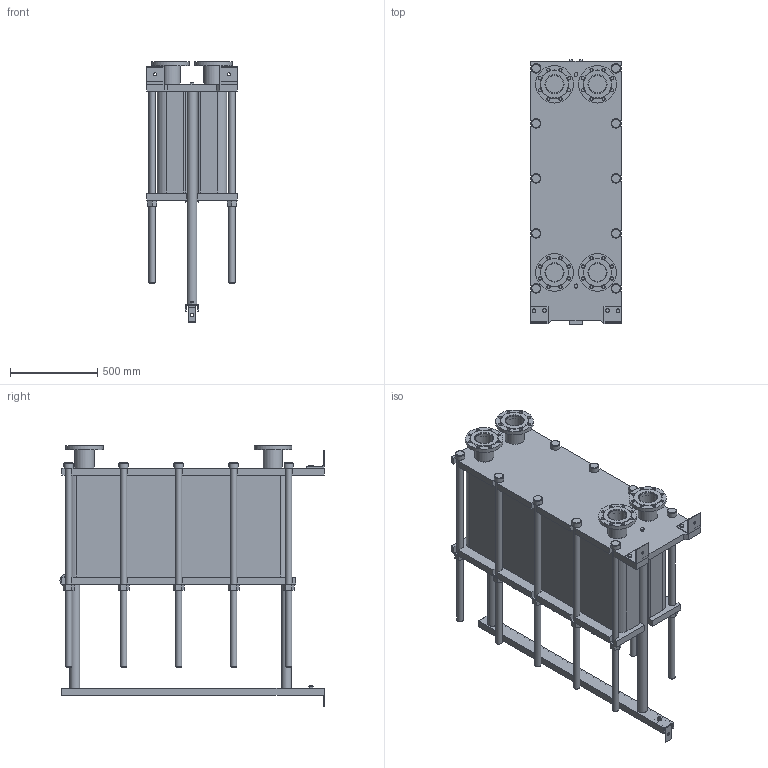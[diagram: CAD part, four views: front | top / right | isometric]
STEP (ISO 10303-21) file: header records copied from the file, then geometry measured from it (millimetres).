
FILE_DESCRIPTION(/* description */ (''),/* implementation_level */ '2;1');
FILE_NAME(/* name */ 'C:\Users\zhuro\Desktop\ENCO\TO\ЭН-04\ЭН-0,5-04-169-1.stp',/* time_stamp */ '2022-06-06T11:00:07+03:00',/* author */ ('zhuro'),/* organization */ (''),/* preprocessor_version */ 'ST-DEVELOPER v18.1',/* originating_system */ 'Autodesk Inventor 2022',/* authorisation */ '');
FILE_SCHEMA (('AUTOMOTIVE_DESIGN { 1 0 10303 214 3 1 1 }'));
Length unit declared in the file: millimetre
Products named in the file (1): ЭН-0,5-04-169-1
Bounding box: 520 x 1510 x 1494.5 mm (x, y, z)
Volume: 366303004.3 mm3; surface area: 9872578.5 mm2
Topology: 45 solids, 45 shells, 668 faces, 1611 edges, 1048 vertices
Faces by surface type: plane 457, cylinder 166, cone 39, torus 6
Full cylindrical faces by diameter (mm): 8 x4, 10 x2, 16 x8, 18 x35, 36 x25, 40 x2, 42 x1, 45 x4, 54 x10, 57 x2, 60 x10, 68 x2, 100 x4, 110 x8, 215 x4
Entity records: 23607 total; most frequent: CARTESIAN_POINT 7348, DIRECTION 3371, ORIENTED_EDGE 3142, EDGE_CURVE 1571, AXIS2_PLACEMENT_3D 1199, VERTEX_POINT 1044, LINE 973, VECTOR 973
